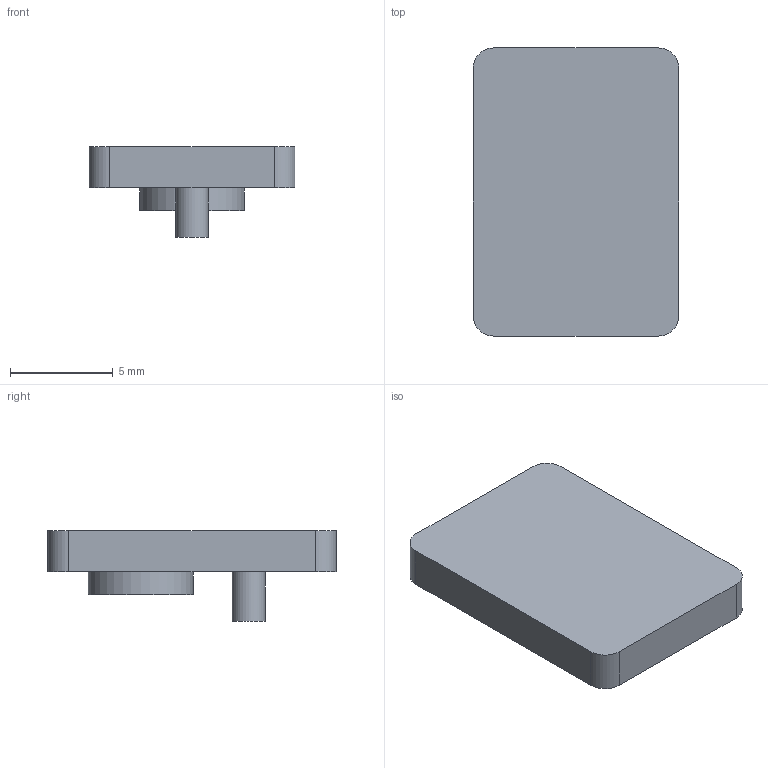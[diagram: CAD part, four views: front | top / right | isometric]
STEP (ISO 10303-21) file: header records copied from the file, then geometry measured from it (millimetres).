
FILE_DESCRIPTION(('Open CASCADE Model'),'2;1');
FILE_NAME('Open CASCADE Shape Model','2026-09-06T11:29:00',('Author'),( 'Open CASCADE'),'Open CASCADE STEP processor 7.7','Open CASCADE 7.7' ,'Unknown');
FILE_SCHEMA(('AUTOMOTIVE_DESIGN { 1 0 10303 214 1 1 1 1 }'));
Length unit declared in the file: millimetre
Products named in the file (1): Open CASCADE STEP translator 7.7 5
Bounding box: 10 x 14 x 4.4 mm (x, y, z)
Volume: 305.6 mm3; surface area: 400.5 mm2
Topology: 1 solids, 1 shells, 14 faces, 30 edges, 20 vertices
Faces by surface type: plane 8, cylinder 6
Full cylindrical faces by diameter (mm): 1.6 x1, 5.1 x1
Entity records: 804 total; most frequent: CARTESIAN_POINT 161, DIRECTION 126, LINE 66, VECTOR 66, ORIENTED_EDGE 60, PCURVE 60, DEFINITIONAL_REPRESENTATION 60, EDGE_CURVE 30
